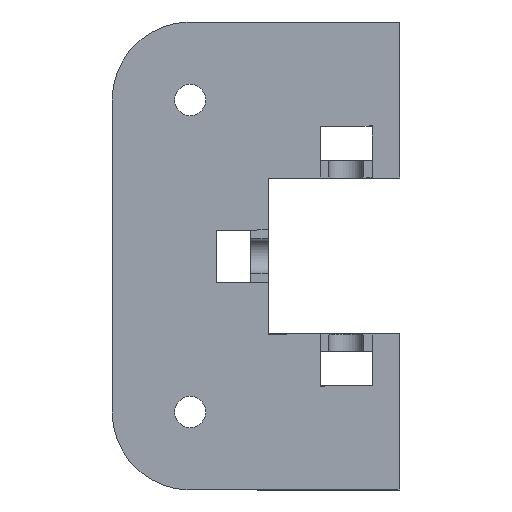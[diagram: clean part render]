
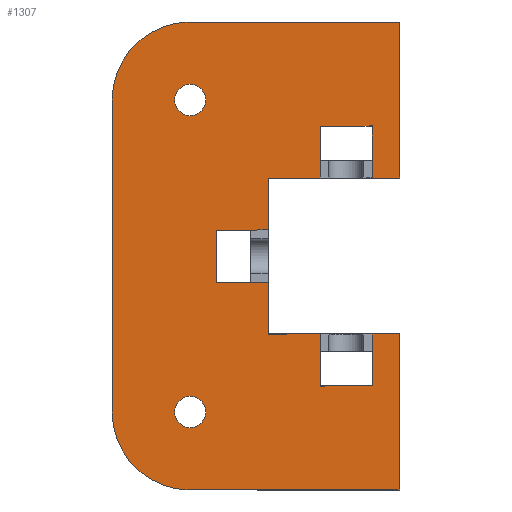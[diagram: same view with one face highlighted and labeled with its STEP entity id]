
A CAD part, front view. The second image highlights one B-rep face of the part: STEP entity #1307.
In plain terms, the highlighted planar face has unit normal (0, -1, 0).
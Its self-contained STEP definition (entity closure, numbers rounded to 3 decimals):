
#33=FACE_BOUND('',#160,.T.);
#34=FACE_BOUND('',#161,.T.);
#37=PLANE('',#1400);
#90=FACE_OUTER_BOUND('',#159,.T.);
#159=EDGE_LOOP('',(#901,#902,#903,#904,#905,#906,#907,#908,#909,#910,#911,
#912,#913,#914,#915,#916,#917,#918,#919,#920,#921,#922));
#160=EDGE_LOOP('',(#923));
#161=EDGE_LOOP('',(#924));
#232=LINE('',#1884,#395);
#233=LINE('',#1886,#396);
#234=LINE('',#1890,#397);
#235=LINE('',#1894,#398);
#236=LINE('',#1896,#399);
#237=LINE('',#1898,#400);
#238=LINE('',#1900,#401);
#239=LINE('',#1902,#402);
#240=LINE('',#1904,#403);
#241=LINE('',#1906,#404);
#242=LINE('',#1908,#405);
#243=LINE('',#1910,#406);
#244=LINE('',#1912,#407);
#245=LINE('',#1914,#408);
#246=LINE('',#1916,#409);
#247=LINE('',#1918,#410);
#248=LINE('',#1920,#411);
#249=LINE('',#1922,#412);
#250=LINE('',#1924,#413);
#251=LINE('',#1925,#414);
#395=VECTOR('',#1515,1000.);
#396=VECTOR('',#1516,1000.);
#397=VECTOR('',#1519,1000.);
#398=VECTOR('',#1522,1000.);
#399=VECTOR('',#1523,1000.);
#400=VECTOR('',#1524,1000.);
#401=VECTOR('',#1525,1000.);
#402=VECTOR('',#1526,1000.);
#403=VECTOR('',#1527,1000.);
#404=VECTOR('',#1528,1000.);
#405=VECTOR('',#1529,1000.);
#406=VECTOR('',#1530,1000.);
#407=VECTOR('',#1531,1000.);
#408=VECTOR('',#1532,1000.);
#409=VECTOR('',#1533,1000.);
#410=VECTOR('',#1534,1000.);
#411=VECTOR('',#1535,1000.);
#412=VECTOR('',#1536,1000.);
#413=VECTOR('',#1537,1000.);
#414=VECTOR('',#1538,1000.);
#557=CIRCLE('',#1396,4.5);
#559=CIRCLE('',#1399,4.5);
#560=CIRCLE('',#1401,22.5);
#561=CIRCLE('',#1402,22.5);
#573=VERTEX_POINT('',#1872);
#575=VERTEX_POINT('',#1878);
#576=VERTEX_POINT('',#1882);
#577=VERTEX_POINT('',#1883);
#578=VERTEX_POINT('',#1885);
#579=VERTEX_POINT('',#1887);
#580=VERTEX_POINT('',#1889);
#581=VERTEX_POINT('',#1891);
#582=VERTEX_POINT('',#1893);
#583=VERTEX_POINT('',#1895);
#584=VERTEX_POINT('',#1897);
#585=VERTEX_POINT('',#1899);
#586=VERTEX_POINT('',#1901);
#587=VERTEX_POINT('',#1903);
#588=VERTEX_POINT('',#1905);
#589=VERTEX_POINT('',#1907);
#590=VERTEX_POINT('',#1909);
#591=VERTEX_POINT('',#1911);
#592=VERTEX_POINT('',#1913);
#593=VERTEX_POINT('',#1915);
#594=VERTEX_POINT('',#1917);
#595=VERTEX_POINT('',#1919);
#596=VERTEX_POINT('',#1921);
#597=VERTEX_POINT('',#1923);
#698=EDGE_CURVE('',#573,#573,#557,.T.);
#701=EDGE_CURVE('',#575,#575,#559,.T.);
#702=EDGE_CURVE('',#576,#577,#232,.T.);
#703=EDGE_CURVE('',#578,#576,#233,.T.);
#704=EDGE_CURVE('',#578,#579,#560,.T.);
#705=EDGE_CURVE('',#580,#579,#234,.T.);
#706=EDGE_CURVE('',#580,#581,#561,.T.);
#707=EDGE_CURVE('',#582,#581,#235,.T.);
#708=EDGE_CURVE('',#583,#582,#236,.T.);
#709=EDGE_CURVE('',#583,#584,#237,.T.);
#710=EDGE_CURVE('',#585,#584,#238,.T.);
#711=EDGE_CURVE('',#586,#585,#239,.T.);
#712=EDGE_CURVE('',#587,#586,#240,.T.);
#713=EDGE_CURVE('',#587,#588,#241,.T.);
#714=EDGE_CURVE('',#588,#589,#242,.T.);
#715=EDGE_CURVE('',#590,#589,#243,.T.);
#716=EDGE_CURVE('',#591,#590,#244,.T.);
#717=EDGE_CURVE('',#592,#591,#245,.T.);
#718=EDGE_CURVE('',#592,#593,#246,.T.);
#719=EDGE_CURVE('',#593,#594,#247,.T.);
#720=EDGE_CURVE('',#594,#595,#248,.T.);
#721=EDGE_CURVE('',#595,#596,#249,.T.);
#722=EDGE_CURVE('',#596,#597,#250,.T.);
#723=EDGE_CURVE('',#597,#577,#251,.T.);
#901=ORIENTED_EDGE('',*,*,#702,.F.);
#902=ORIENTED_EDGE('',*,*,#703,.F.);
#903=ORIENTED_EDGE('',*,*,#704,.T.);
#904=ORIENTED_EDGE('',*,*,#705,.F.);
#905=ORIENTED_EDGE('',*,*,#706,.T.);
#906=ORIENTED_EDGE('',*,*,#707,.F.);
#907=ORIENTED_EDGE('',*,*,#708,.F.);
#908=ORIENTED_EDGE('',*,*,#709,.T.);
#909=ORIENTED_EDGE('',*,*,#710,.F.);
#910=ORIENTED_EDGE('',*,*,#711,.F.);
#911=ORIENTED_EDGE('',*,*,#712,.F.);
#912=ORIENTED_EDGE('',*,*,#713,.T.);
#913=ORIENTED_EDGE('',*,*,#714,.T.);
#914=ORIENTED_EDGE('',*,*,#715,.F.);
#915=ORIENTED_EDGE('',*,*,#716,.F.);
#916=ORIENTED_EDGE('',*,*,#717,.F.);
#917=ORIENTED_EDGE('',*,*,#718,.T.);
#918=ORIENTED_EDGE('',*,*,#719,.T.);
#919=ORIENTED_EDGE('',*,*,#720,.T.);
#920=ORIENTED_EDGE('',*,*,#721,.T.);
#921=ORIENTED_EDGE('',*,*,#722,.T.);
#922=ORIENTED_EDGE('',*,*,#723,.T.);
#923=ORIENTED_EDGE('',*,*,#701,.T.);
#924=ORIENTED_EDGE('',*,*,#698,.T.);
#1307=ADVANCED_FACE('',(#90,#33,#34),#37,.T.);
#1396=AXIS2_PLACEMENT_3D('',#1874,#1504,#1505);
#1399=AXIS2_PLACEMENT_3D('',#1880,#1511,#1512);
#1400=AXIS2_PLACEMENT_3D('',#1881,#1513,#1514);
#1401=AXIS2_PLACEMENT_3D('',#1888,#1517,#1518);
#1402=AXIS2_PLACEMENT_3D('',#1892,#1520,#1521);
#1504=DIRECTION('center_axis',(0.,1.,0.));
#1505=DIRECTION('ref_axis',(0.,0.,
-1.));
#1511=DIRECTION('center_axis',(0.,1.,0.));
#1512=DIRECTION('ref_axis',(0.,0.,
1.));
#1513=DIRECTION('center_axis',(0.,-1.,0.));
#1514=DIRECTION('ref_axis',(0.,0.,
-1.));
#1515=DIRECTION('',(0.,0.,-1.));
#1516=DIRECTION('',(1.,0.,0.));
#1517=DIRECTION('center_axis',(0.,-1.,0.));
#1518=DIRECTION('ref_axis',(0.,0.,
-1.));
#1519=DIRECTION('',(0.,0.,1.));
#1520=DIRECTION('center_axis',(0.,-1.,0.));
#1521=DIRECTION('ref_axis',(0.,0.,
-1.));
#1522=DIRECTION('',(-1.,0.,0.));
#1523=DIRECTION('',(0.,0.,-1.));
#1524=DIRECTION('',(-1.,0.,0.));
#1525=DIRECTION('',(0.,0.,1.));
#1526=DIRECTION('',(1.,0.,0.));
#1527=DIRECTION('',(0.,0.,-1.));
#1528=DIRECTION('',(-1.,0.,0.));
#1529=DIRECTION('',(0.,0.,1.));
#1530=DIRECTION('',(1.,0.,0.));
#1531=DIRECTION('',(0.,0.,-1.));
#1532=DIRECTION('',(-1.,0.,0.));
#1533=DIRECTION('',(0.,0.,1.));
#1534=DIRECTION('',(1.,0.,0.));
#1535=DIRECTION('',(0.,0.,1.));
#1536=DIRECTION('',(1.,0.,0.));
#1537=DIRECTION('',(0.,0.,-1.));
#1538=DIRECTION('',(1.,0.,0.));
#1872=CARTESIAN_POINT('',(-45.,0.,49.5));
#1874=CARTESIAN_POINT('Origin',(-45.,0.,45.));
#1878=CARTESIAN_POINT('',(-45.,0.,-40.5));
#1880=CARTESIAN_POINT('Origin',(-45.,0.,
-45.));
#1881=CARTESIAN_POINT('Origin',(-67.5,0.,
-67.5));
#1882=CARTESIAN_POINT('',(15.5,0.,67.5));
#1883=CARTESIAN_POINT('',(15.5,0.,22.5));
#1884=CARTESIAN_POINT('',(15.5,0.,67.5));
#1885=CARTESIAN_POINT('',(-45.,0.,67.5));
#1886=CARTESIAN_POINT('',(-67.5,0.,67.5));
#1887=CARTESIAN_POINT('',(-67.5,0.,45.));
#1888=CARTESIAN_POINT('Origin',(-45.,0.,45.));
#1889=CARTESIAN_POINT('',(-67.5,0.,-45.));
#1890=CARTESIAN_POINT('',(-67.5,0.,67.5));
#1891=CARTESIAN_POINT('',(-45.,0.,-67.5));
#1892=CARTESIAN_POINT('Origin',(-45.,0.,
-45.));
#1893=CARTESIAN_POINT('',(15.5,0.,-67.5));
#1894=CARTESIAN_POINT('',(-67.5,0.,-67.5));
#1895=CARTESIAN_POINT('',(15.5,0.,-22.5));
#1896=CARTESIAN_POINT('',(15.5,0.,67.5));
#1897=CARTESIAN_POINT('',(7.5,0.,-22.5));
#1898=CARTESIAN_POINT('',(-22.5,0.,-22.5));
#1899=CARTESIAN_POINT('',(7.5,0.,-37.5));
#1900=CARTESIAN_POINT('',(7.5,0.,-22.5));
#1901=CARTESIAN_POINT('',(-7.5,0.,-37.5));
#1902=CARTESIAN_POINT('',(7.5,0.,-37.5));
#1903=CARTESIAN_POINT('',(-7.5,0.,-22.5));
#1904=CARTESIAN_POINT('',(-7.5,0.,-22.5));
#1905=CARTESIAN_POINT('',(-22.5,0.,-22.5));
#1906=CARTESIAN_POINT('',(-22.5,0.,-22.5));
#1907=CARTESIAN_POINT('',(-22.5,0.,-7.5));
#1908=CARTESIAN_POINT('',(-22.5,0.,-22.5));
#1909=CARTESIAN_POINT('',(-37.5,0.,-7.5));
#1910=CARTESIAN_POINT('',(-22.5,0.,-7.5));
#1911=CARTESIAN_POINT('',(-37.5,0.,7.5));
#1912=CARTESIAN_POINT('',(-37.5,0.,-7.5));
#1913=CARTESIAN_POINT('',(-22.5,0.,7.5));
#1914=CARTESIAN_POINT('',(-22.5,0.,7.5));
#1915=CARTESIAN_POINT('',(-22.5,0.,22.5));
#1916=CARTESIAN_POINT('',(-22.5,0.,-22.5));
#1917=CARTESIAN_POINT('',(-7.5,0.,22.5));
#1918=CARTESIAN_POINT('',(-22.5,0.,22.5));
#1919=CARTESIAN_POINT('',(-7.5,0.,37.5));
#1920=CARTESIAN_POINT('',(-7.5,0.,22.5));
#1921=CARTESIAN_POINT('',(7.5,0.,37.5));
#1922=CARTESIAN_POINT('',(7.5,0.,37.5));
#1923=CARTESIAN_POINT('',(7.5,0.,22.5));
#1924=CARTESIAN_POINT('',(7.5,0.,22.5));
#1925=CARTESIAN_POINT('',(-22.5,0.,22.5));
